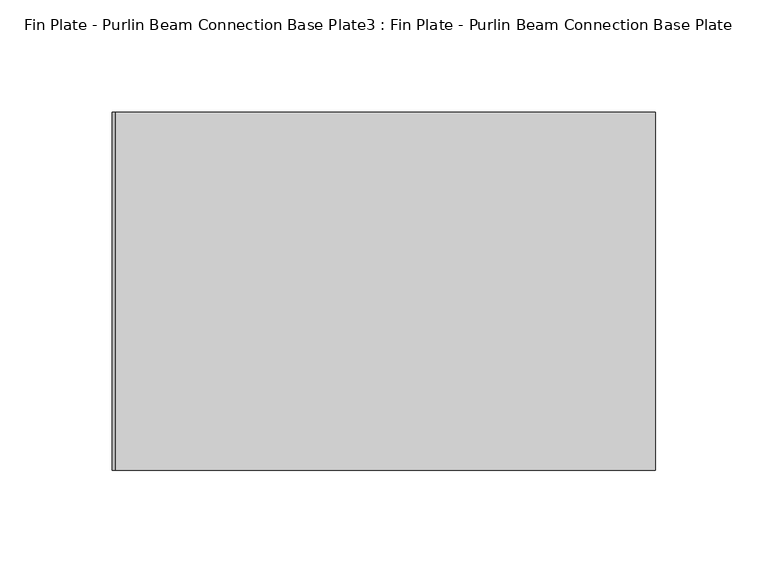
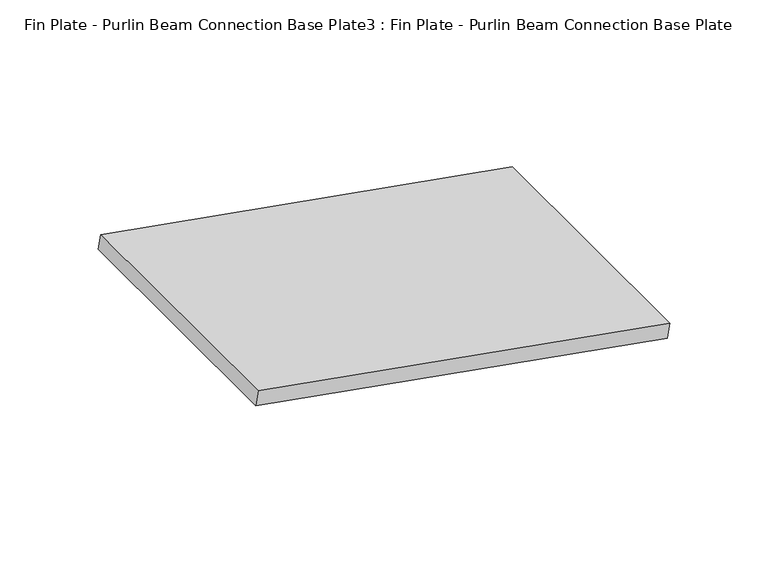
"""IFC4 building model written with IfcOpenShell, lengths in millimetres: proxy geometry, Fin Plate - Purlin Beam Connection Base Plate3 : Fin Plate - Purlin Beam Connection Base Plate."""

from ifc_helpers import new_model, si_unit, frame, origin, place, context, project, spatial, polyline, outline, extrude, source, transform, mapped, element, save


def fin_plate_purlin_beam_connection_base_plate3_fin_plate_3f60e863(model_context):
    return source(origin(), model_context, "Body", "SweptSolid", [
        extrude(outline(polyline([(0.0, -160.0), (0.0, 0.0), (245.0, 0.0), (245.0, -160.0), (0.0, -160.0)])), frame((-31958.5886145, 16116.223117, 3241.7802983), z_axis=(0.17364817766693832, 0.0, 0.9848077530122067), x_axis=(0.9848077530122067, 0.0, -0.17364817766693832)), (0.0, 0.0, 1.0), 8.8039089),
    ])


if __name__ == "__main__":
    model = new_model("IFC4")
    model_context = context("Model", 3, world=origin())
    ifc_project = project(units=[si_unit("LENGTHUNIT", "METRE", prefix="MILLI")], contexts=[model_context])
    site = spatial("IfcSite", under=ifc_project)
    building = spatial("IfcBuilding", under=site)
    placement = place(None, origin())
    fin_plate_purlin_beam_connection_base_plate3_fin_plate_shape = fin_plate_purlin_beam_connection_base_plate3_fin_plate_3f60e863(model_context)
    element("IfcBuildingElementProxy", 1, Name="Fin Plate - Purlin Beam Connection Base Plate3 : Fin Plate - Purlin Beam Connection Base Plate", ObjectType="Fin Plate - Purlin Beam Connection Base Plate3 : Fin Plate - Purlin Beam Connection Base Plate", at=placement, inside=building, context=model_context, shape_type="MappedRepresentation", body=[
        mapped(fin_plate_purlin_beam_connection_base_plate3_fin_plate_shape, transform((0.0, 0.0, 0.0), x_axis=(1.0, 0.0, 0.0), y_axis=(0.0, 1.0, 0.0), z_axis=(0.0, 0.0, 1.0))),
    ])
    save(model, "model.ifc")
